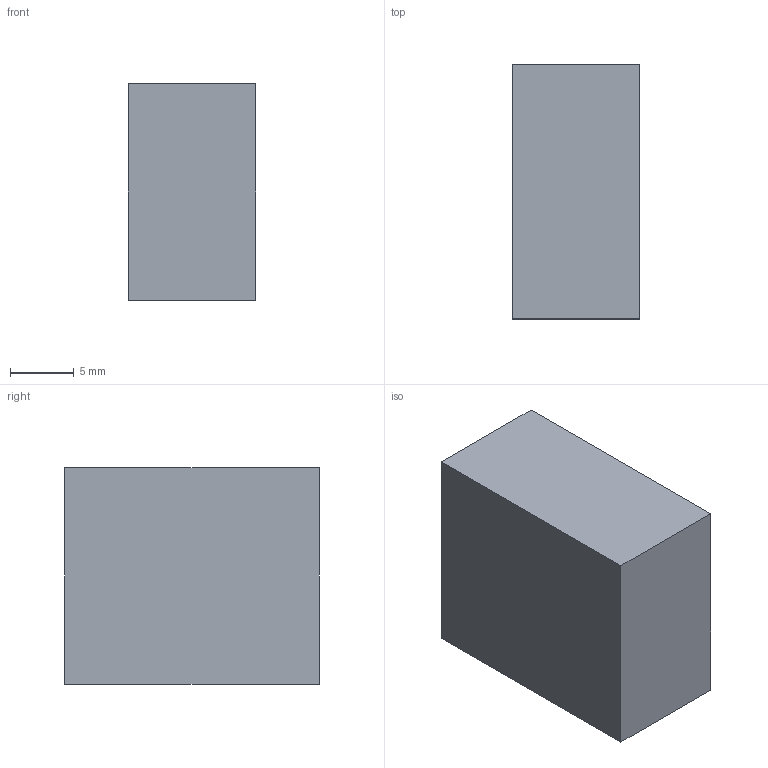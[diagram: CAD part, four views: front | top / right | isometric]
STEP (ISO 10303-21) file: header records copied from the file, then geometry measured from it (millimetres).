
FILE_DESCRIPTION(('STEP AP203'), '1');
FILE_NAME('Óïîð _ Ðû÷àã Lemken ID_39152 (4367460).03', '', ('UNSPECIFIED'), ('UNSPECIFIED'), 'C3D Converter', 'C3D Toolkit', '');
FILE_SCHEMA(('CONFIG_CONTROL_DESIGN'));
Length unit declared in the file: millimetre
Products named in the file (1): Рычаг Lemken ID_39152 (4367460).03
Bounding box: 10 x 20 x 17 mm (x, y, z)
Volume: 3400 mm3; surface area: 1420 mm2
Topology: 1 solids, 1 shells, 6 faces, 12 edges, 8 vertices
Faces by surface type: plane 6
Entity records: 244 total; most frequent: CARTESIAN_POINT 27, DIRECTION 26, ORIENTED_EDGE 24, EDGE_CURVE 12, LINE 12, VECTOR 12, VERTEX_POINT 8, AXIS2_PLACEMENT_3D 7
